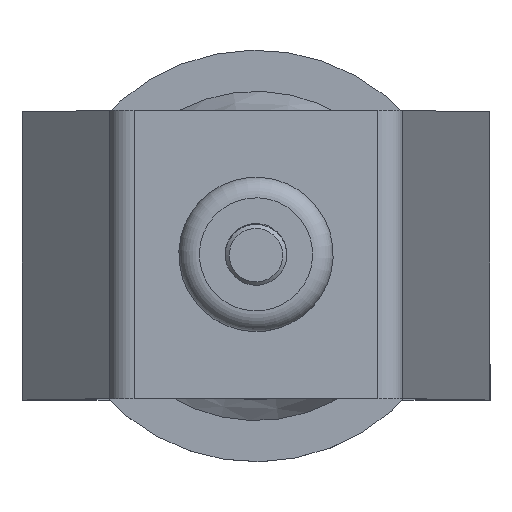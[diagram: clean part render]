
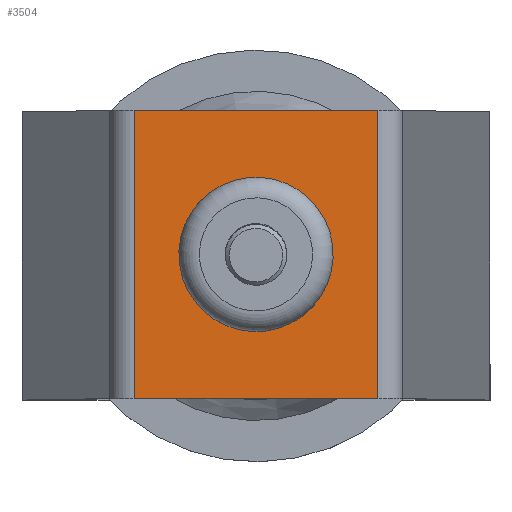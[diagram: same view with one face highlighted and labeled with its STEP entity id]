
A CAD part, top view. The second image highlights one B-rep face of the part: STEP entity #3504.
In plain terms, the highlighted planar face has unit normal (0, 0, 1).
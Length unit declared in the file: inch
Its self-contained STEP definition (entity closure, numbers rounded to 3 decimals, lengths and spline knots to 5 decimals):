
#322=PLANE('',#3853);
#452=LINE('',#5647,#602);
#453=LINE('',#5649,#603);
#454=LINE('',#5651,#604);
#455=LINE('',#5652,#605);
#602=VECTOR('',#4547,1.75);
#603=VECTOR('',#4548,1.4802);
#604=VECTOR('',#4549,1.75);
#605=VECTOR('',#4550,1.4802);
#704=FACE_BOUND('',#1164,.T.);
#889=FACE_OUTER_BOUND('',#1163,.T.);
#1163=EDGE_LOOP('',(#2722,#2723,#2724,#2725));
#1164=EDGE_LOOP('',(#2726));
#1387=CIRCLE('',#3832,0.34375);
#1601=VERTEX_POINT('',#5578);
#1620=VERTEX_POINT('',#5640);
#1621=VERTEX_POINT('',#5646);
#1622=VERTEX_POINT('',#5648);
#1623=VERTEX_POINT('',#5650);
#1981=EDGE_CURVE('',#1601,#1601,#1387,.T.);
#2015=EDGE_CURVE('',#1621,#1620,#452,.T.);
#2016=EDGE_CURVE('',#1622,#1621,#453,.T.);
#2017=EDGE_CURVE('',#1622,#1623,#454,.T.);
#2018=EDGE_CURVE('',#1620,#1623,#455,.T.);
#2722=ORIENTED_EDGE('',*,*,#2015,.F.);
#2723=ORIENTED_EDGE('',*,*,#2016,.F.);
#2724=ORIENTED_EDGE('',*,*,#2017,.T.);
#2725=ORIENTED_EDGE('',*,*,#2018,.F.);
#2726=ORIENTED_EDGE('',*,*,#1981,.T.);
#3504=ADVANCED_FACE('',(#889,#704),#322,.F.);
#3832=AXIS2_PLACEMENT_3D('',#5579,#4477,#4478);
#3853=AXIS2_PLACEMENT_3D('',#5645,#4545,#4546);
#4477=DIRECTION('center_axis',(0.,0.,
-1.));
#4478=DIRECTION('ref_axis',(-1.,0.,0.));
#4545=DIRECTION('center_axis',(0.,0.,
-1.));
#4546=DIRECTION('ref_axis',(1.,0.,0.));
#4547=DIRECTION('',(0.,-1.,0.));
#4548=DIRECTION('',(1.,0.,0.));
#4549=DIRECTION('',(0.,-1.,0.));
#4550=DIRECTION('',(-1.,0.,0.));
#5578=CARTESIAN_POINT('',(-0.34375,0.,0.));
#5579=CARTESIAN_POINT('Origin',(0.,0.,
0.));
#5640=CARTESIAN_POINT('',(0.7401,-0.875,0.));
#5645=CARTESIAN_POINT('Origin',(0.,0.,
0.));
#5646=CARTESIAN_POINT('',(0.7401,0.875,0.));
#5647=CARTESIAN_POINT('',(0.7401,0.,0.));
#5648=CARTESIAN_POINT('',(-0.7401,0.875,0.));
#5649=CARTESIAN_POINT('',(6.30637,0.875,0.));
#5650=CARTESIAN_POINT('',(-0.7401,-0.875,0.));
#5651=CARTESIAN_POINT('',(-0.7401,0.,0.));
#5652=CARTESIAN_POINT('',(-6.76591,-0.875,0.));
